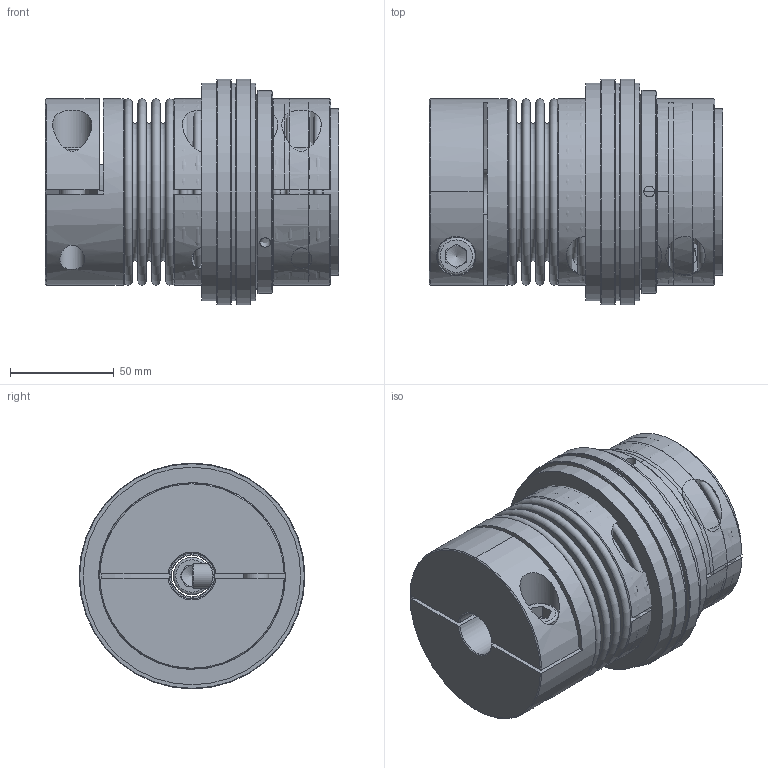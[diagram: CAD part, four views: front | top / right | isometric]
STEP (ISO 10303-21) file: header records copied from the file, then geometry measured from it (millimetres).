
FILE_DESCRIPTION( ( 'Unknown' ), '1' );
FILE_NAME( 'C:/Dokumente und Einstellungen/SKarpstein/Desktop/Korrigierte 3D Modelle/KBK-BKK-200-138.stp', 'Unknown', ( 'Unknown' ), ( 'Unknown' ), 'XStep 1.0', 'Unknown', ' ' );
FILE_SCHEMA( ( 'automotive_design' ) );
Length unit declared in the file: millimetre
Products named in the file (11): Assem1; Assem2; Zylinderschraube DIN 912_2; Stellring 200; Druckring 200; KBK L-K-200 Grundkörper; Klemmnabe 200; Flansch BK200; BL200_Standard_0; KN200_Standard_2; Socket Head Cap Screw_DIN_DIN 912 M12 x 35 --- 35N_2
Bounding box: 141.55 x 109 x 109 mm (x, y, z)
Volume: 1352490.3 mm3; surface area: 458011.7 mm2
Topology: 19 solids, 19 shells, 409 faces, 840 edges, 551 vertices
Faces by surface type: plane 188, cylinder 100, cone 61, torus 60
Full cylindrical faces by diameter (mm): 3.242 x6, 5.2 x12, 10.106 x2, 12 x7, 12.5 x4, 18 x5, 19 x4, 20 x2, 22 x2, 45 x2, 47 x2, 50 x4, 60 x2, 62 x2, 65 x2, 66 x4, 77 x2, 79.2 x4, 80.4 x4, 90 x4, 98 x2, 105 x4, 109 x2
Entity records: 5497 total; most frequent: CARTESIAN_POINT 1459, DIRECTION 839, ORIENTED_EDGE 556, AXIS2_PLACEMENT_3D 383, EDGE_LOOP 356, EDGE_CURVE 278, FACE_OUTER_BOUND 267, VERTEX_POINT 235
